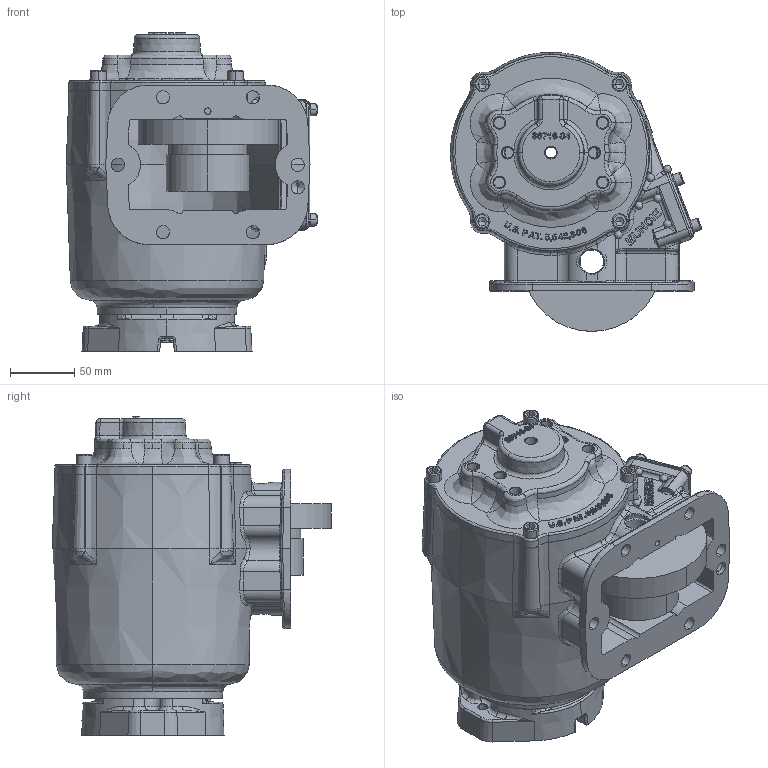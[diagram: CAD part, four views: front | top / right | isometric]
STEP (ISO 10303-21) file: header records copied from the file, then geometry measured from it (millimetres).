
FILE_DESCRIPTION (( 'STEP AP203' ), '1' );
FILE_NAME ('CS6S-XXXXX-X1TX.STEP', '2011-11-29T15:50:36', ( 'User' ), ( 'Muncie Power Products, Inc.' ), 'SwSTEP 2.0', 'SolidWorks 2011', '' );
FILE_SCHEMA (( 'CONFIG_CONTROL_DESIGN' ));
Products named in the file (3): CS6S-XXXXX-X1TX; 14T39141; CS6S-XXXXX-X16X
Assembly tree (2 placements, depth 2):
  CS6S-XXXXX-X1TX
    14T39141
    CS6S-XXXXX-X16X
Bounding box: 195.33 x 216.75 x 247.66 mm (x, y, z)
Volume: 187829 mm3; surface area: 392477.2 mm2
Topology: 1 solids, 13 shells, 2174 faces, 5788 edges, 3628 vertices
Faces by surface type: bspline 1008, plane 534, cylinder 415, cone 217
Entity records: 162816 total; most frequent: CARTESIAN_POINT 117187, ORIENTED_EDGE 11306, DIRECTION 6185, EDGE_CURVE 5654, VERTEX_POINT 3628, B_SPLINE_CURVE_WITH_KNOTS 2510, EDGE_LOOP 2384, ADVANCED_FACE 2174
